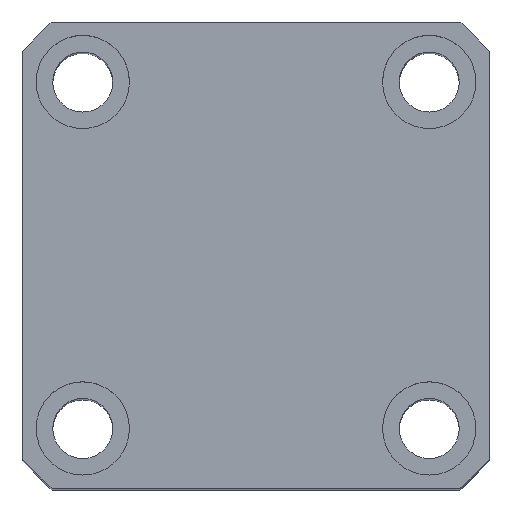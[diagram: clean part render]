
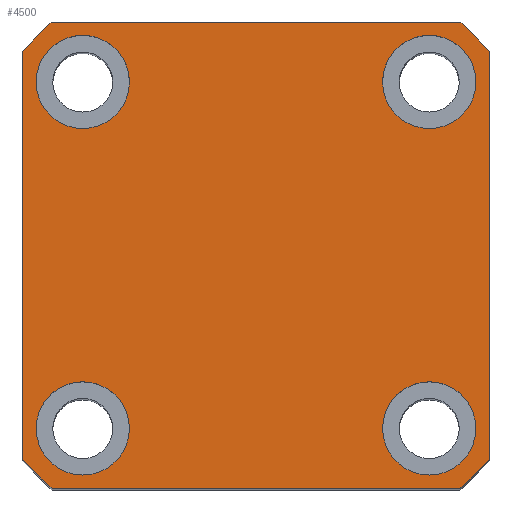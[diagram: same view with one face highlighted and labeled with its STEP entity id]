
A CAD part, top view. The second image highlights one B-rep face of the part: STEP entity #4500.
In plain terms, the highlighted planar face has unit normal (0, 0, 1).
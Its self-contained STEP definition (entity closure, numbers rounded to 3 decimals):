
#63 = CARTESIAN_POINT ( 'NONE',  ( -33., -26., 140. ) ) ;
#175 = DIRECTION ( 'NONE',  ( 1., 0., 0. ) ) ;
#280 = CARTESIAN_POINT ( 'NONE',  ( -26., -26., 140. ) ) ;
#434 = DIRECTION ( 'NONE',  ( -1., 0., 0. ) ) ;
#436 = AXIS2_PLACEMENT_3D ( 'NONE', #6849, #538, #7896 ) ;
#514 = CARTESIAN_POINT ( 'NONE',  ( 30.615, -35., 140. ) ) ;
#538 = DIRECTION ( 'NONE',  ( 0., 0., 1. ) ) ;
#757 = DIRECTION ( 'NONE',  ( 0., 0., 1. ) ) ;
#777 = DIRECTION ( 'NONE',  ( 0., 0., 1. ) ) ;
#785 = EDGE_CURVE ( 'NONE', #11726, #2215, #5813, .T. ) ;
#795 = PLANE ( 'NONE',  #3939 ) ;
#863 = DIRECTION ( 'NONE',  ( 1., 0., 0. ) ) ;
#873 = LINE ( 'NONE', #9091, #3022 ) ;
#967 = CARTESIAN_POINT ( 'NONE',  ( -19., 26., 140. ) ) ;
#975 = AXIS2_PLACEMENT_3D ( 'NONE', #13372, #7157, #863 ) ;
#1050 = VERTEX_POINT ( 'NONE', #7836 ) ;
#1063 = ORIENTED_EDGE ( 'NONE', *, *, #9046, .F. ) ;
#1356 = DIRECTION ( 'NONE',  ( 1., 0., 0. ) ) ;
#1388 = ORIENTED_EDGE ( 'NONE', *, *, #785, .F. ) ;
#1522 = CIRCLE ( 'NONE', #13301, 7. ) ;
#1738 = ORIENTED_EDGE ( 'NONE', *, *, #13108, .T. ) ;
#1773 = DIRECTION ( 'NONE',  ( 0., 0., 1. ) ) ;
#1873 = VECTOR ( 'NONE', #6742, 1000. ) ;
#2026 = CARTESIAN_POINT ( 'NONE',  ( 0., 0., 140. ) ) ;
#2215 = VERTEX_POINT ( 'NONE', #3346 ) ;
#2222 = VERTEX_POINT ( 'NONE', #2290 ) ;
#2290 = CARTESIAN_POINT ( 'NONE',  ( -30.615, -35., 140. ) ) ;
#2973 = CARTESIAN_POINT ( 'NONE',  ( 0., 0., 140. ) ) ;
#3022 = VECTOR ( 'NONE', #5977, 1000. ) ;
#3054 = CARTESIAN_POINT ( 'NONE',  ( 0., 0., 140. ) ) ;
#3081 = DIRECTION ( 'NONE',  ( 1., 0., 0. ) ) ;
#3088 = DIRECTION ( 'NONE',  ( 0., 0., 1. ) ) ;
#3131 = CARTESIAN_POINT ( 'NONE',  ( 26., -26., 140. ) ) ;
#3213 = CARTESIAN_POINT ( 'NONE',  ( 33., -26., 140. ) ) ;
#3277 = CARTESIAN_POINT ( 'NONE',  ( 30.615, 35., 140. ) ) ;
#3346 = CARTESIAN_POINT ( 'NONE',  ( 19., -26., 140. ) ) ;
#3475 = DIRECTION ( 'NONE',  ( 1., 0., 0. ) ) ;
#3540 = ORIENTED_EDGE ( 'NONE', *, *, #4556, .T. ) ;
#3690 = CIRCLE ( 'NONE', #10858, 7. ) ;
#3845 = CARTESIAN_POINT ( 'NONE',  ( 33., 26., 140. ) ) ;
#3939 = AXIS2_PLACEMENT_3D ( 'NONE', #6040, #3971, #11322 ) ;
#3971 = DIRECTION ( 'NONE',  ( 0., 0., 1. ) ) ;
#4021 = DIRECTION ( 'NONE',  ( 1., 0., 0. ) ) ;
#4050 = VERTEX_POINT ( 'NONE', #5065 ) ;
#4110 = DIRECTION ( 'NONE',  ( 1., 0., 0. ) ) ;
#4167 = LINE ( 'NONE', #12674, #6293 ) ;
#4173 = EDGE_LOOP ( 'NONE', ( #5843, #6168 ) ) ;
#4210 = ORIENTED_EDGE ( 'NONE', *, *, #10808, .T. ) ;
#4428 = AXIS2_PLACEMENT_3D ( 'NONE', #280, #7652, #1356 ) ;
#4500 = ADVANCED_FACE ( 'NONE', ( #11607, #11282, #8793, #6019, #8461 ), #795, .T. ) ;
#4556 = EDGE_CURVE ( 'NONE', #4050, #6726, #10627, .T. ) ;
#4680 = EDGE_LOOP ( 'NONE', ( #8455, #3540, #6336, #9477, #4210, #1738, #7321, #7647 ) ) ;
#5065 = CARTESIAN_POINT ( 'NONE',  ( 35., 30.615, 140. ) ) ;
#5451 = EDGE_CURVE ( 'NONE', #9612, #5745, #1522, .T. ) ;
#5612 = EDGE_CURVE ( 'NONE', #9495, #7906, #6127, .T. ) ;
#5696 = EDGE_CURVE ( 'NONE', #2215, #11726, #5803, .T. ) ;
#5745 = VERTEX_POINT ( 'NONE', #8246 ) ;
#5778 = CIRCLE ( 'NONE', #975, 46.5 ) ;
#5803 = CIRCLE ( 'NONE', #6773, 7. ) ;
#5813 = CIRCLE ( 'NONE', #5933, 7. ) ;
#5843 = ORIENTED_EDGE ( 'NONE', *, *, #8681, .F. ) ;
#5933 = AXIS2_PLACEMENT_3D ( 'NONE', #3131, #3088, #3475 ) ;
#5977 = DIRECTION ( 'NONE',  ( 0., 1., 0. ) ) ;
#6019 = FACE_BOUND ( 'NONE', #4173, .T. ) ;
#6023 = CARTESIAN_POINT ( 'NONE',  ( -26., 26., 140. ) ) ;
#6040 = CARTESIAN_POINT ( 'NONE',  ( 0., 0., 140. ) ) ;
#6078 = AXIS2_PLACEMENT_3D ( 'NONE', #2973, #10324, #4021 ) ;
#6127 = CIRCLE ( 'NONE', #6078, 46.5 ) ;
#6153 = AXIS2_PLACEMENT_3D ( 'NONE', #3054, #10412, #4110 ) ;
#6168 = ORIENTED_EDGE ( 'NONE', *, *, #8584, .F. ) ;
#6293 = VECTOR ( 'NONE', #9562, 1000. ) ;
#6335 = CARTESIAN_POINT ( 'NONE',  ( -35., -30.615, 140. ) ) ;
#6336 = ORIENTED_EDGE ( 'NONE', *, *, #10267, .T. ) ;
#6489 = DIRECTION ( 'NONE',  ( 0., 0., 1. ) ) ;
#6559 = CARTESIAN_POINT ( 'NONE',  ( -35., 30.615, 140. ) ) ;
#6726 = VERTEX_POINT ( 'NONE', #3277 ) ;
#6742 = DIRECTION ( 'NONE',  ( 0., -1., 0. ) ) ;
#6773 = AXIS2_PLACEMENT_3D ( 'NONE', #7069, #777, #8114 ) ;
#6849 = CARTESIAN_POINT ( 'NONE',  ( -26., 26., 140. ) ) ;
#7052 = CARTESIAN_POINT ( 'NONE',  ( -26., -26., 140. ) ) ;
#7069 = CARTESIAN_POINT ( 'NONE',  ( 26., -26., 140. ) ) ;
#7073 = DIRECTION ( 'NONE',  ( 1., 0., 0. ) ) ;
#7074 = CIRCLE ( 'NONE', #9174, 7. ) ;
#7151 = VERTEX_POINT ( 'NONE', #967 ) ;
#7157 = DIRECTION ( 'NONE',  ( 0., 0., 1. ) ) ;
#7310 = ORIENTED_EDGE ( 'NONE', *, *, #5696, .F. ) ;
#7321 = ORIENTED_EDGE ( 'NONE', *, *, #11538, .T. ) ;
#7449 = LINE ( 'NONE', #7558, #1873 ) ;
#7558 = CARTESIAN_POINT ( 'NONE',  ( -35., 35., 140. ) ) ;
#7647 = ORIENTED_EDGE ( 'NONE', *, *, #5612, .T. ) ;
#7652 = DIRECTION ( 'NONE',  ( 0., 0., 1. ) ) ;
#7721 = CIRCLE ( 'NONE', #436, 7. ) ;
#7800 = EDGE_CURVE ( 'NONE', #9105, #10043, #5778, .T. ) ;
#7836 = CARTESIAN_POINT ( 'NONE',  ( -33., 26., 140. ) ) ;
#7896 = DIRECTION ( 'NONE',  ( 1., 0., 0. ) ) ;
#7906 = VERTEX_POINT ( 'NONE', #11287 ) ;
#8051 = CARTESIAN_POINT ( 'NONE',  ( 26., 26., 140. ) ) ;
#8097 = DIRECTION ( 'NONE',  ( 1., 0., 0. ) ) ;
#8114 = DIRECTION ( 'NONE',  ( 1., 0., 0. ) ) ;
#8246 = CARTESIAN_POINT ( 'NONE',  ( 19., 26., 140. ) ) ;
#8455 = ORIENTED_EDGE ( 'NONE', *, *, #11104, .T. ) ;
#8461 = FACE_OUTER_BOUND ( 'NONE', #4680, .T. ) ;
#8584 = EDGE_CURVE ( 'NONE', #1050, #7151, #7721, .T. ) ;
#8681 = EDGE_CURVE ( 'NONE', #7151, #1050, #7074, .T. ) ;
#8752 = VECTOR ( 'NONE', #434, 1000. ) ;
#8793 = FACE_BOUND ( 'NONE', #10538, .T. ) ;
#8846 = CARTESIAN_POINT ( 'NONE',  ( -35., 35., 140. ) ) ;
#8930 = EDGE_LOOP ( 'NONE', ( #1063, #9465 ) ) ;
#9046 = EDGE_CURVE ( 'NONE', #11047, #10619, #12533, .T. ) ;
#9091 = CARTESIAN_POINT ( 'NONE',  ( 35., 35., 140. ) ) ;
#9105 = VERTEX_POINT ( 'NONE', #10844 ) ;
#9113 = DIRECTION ( 'NONE',  ( 1., 0., 0. ) ) ;
#9174 = AXIS2_PLACEMENT_3D ( 'NONE', #6023, #13291, #7073 ) ;
#9374 = DIRECTION ( 'NONE',  ( 0., 0., 1. ) ) ;
#9421 = CIRCLE ( 'NONE', #12334, 7. ) ;
#9465 = ORIENTED_EDGE ( 'NONE', *, *, #12862, .F. ) ;
#9477 = ORIENTED_EDGE ( 'NONE', *, *, #7800, .T. ) ;
#9495 = VERTEX_POINT ( 'NONE', #514 ) ;
#9562 = DIRECTION ( 'NONE',  ( 1., 0., 0. ) ) ;
#9612 = VERTEX_POINT ( 'NONE', #3845 ) ;
#9832 = EDGE_CURVE ( 'NONE', #5745, #9612, #3690, .T. ) ;
#10000 = AXIS2_PLACEMENT_3D ( 'NONE', #2026, #9374, #3081 ) ;
#10043 = VERTEX_POINT ( 'NONE', #6559 ) ;
#10153 = CARTESIAN_POINT ( 'NONE',  ( -19., -26., 140. ) ) ;
#10267 = EDGE_CURVE ( 'NONE', #6726, #9105, #11567, .T. ) ;
#10324 = DIRECTION ( 'NONE',  ( 0., 0., 1. ) ) ;
#10412 = DIRECTION ( 'NONE',  ( 0., 0., 1. ) ) ;
#10461 = ORIENTED_EDGE ( 'NONE', *, *, #5451, .F. ) ;
#10538 = EDGE_LOOP ( 'NONE', ( #10461, #13476 ) ) ;
#10619 = VERTEX_POINT ( 'NONE', #63 ) ;
#10627 = CIRCLE ( 'NONE', #6153, 46.5 ) ;
#10808 = EDGE_CURVE ( 'NONE', #10043, #11730, #7449, .T. ) ;
#10844 = CARTESIAN_POINT ( 'NONE',  ( -30.615, 35., 140. ) ) ;
#10858 = AXIS2_PLACEMENT_3D ( 'NONE', #12736, #6489, #175 ) ;
#10899 = CIRCLE ( 'NONE', #10000, 46.5 ) ;
#11042 = EDGE_LOOP ( 'NONE', ( #1388, #7310 ) ) ;
#11047 = VERTEX_POINT ( 'NONE', #10153 ) ;
#11104 = EDGE_CURVE ( 'NONE', #7906, #4050, #873, .T. ) ;
#11282 = FACE_BOUND ( 'NONE', #11042, .T. ) ;
#11287 = CARTESIAN_POINT ( 'NONE',  ( 35., -30.615, 140. ) ) ;
#11322 = DIRECTION ( 'NONE',  ( 1., 0., 0. ) ) ;
#11538 = EDGE_CURVE ( 'NONE', #2222, #9495, #4167, .T. ) ;
#11567 = LINE ( 'NONE', #8846, #8752 ) ;
#11607 = FACE_BOUND ( 'NONE', #8930, .T. ) ;
#11726 = VERTEX_POINT ( 'NONE', #3213 ) ;
#11730 = VERTEX_POINT ( 'NONE', #6335 ) ;
#12334 = AXIS2_PLACEMENT_3D ( 'NONE', #7052, #757, #8097 ) ;
#12533 = CIRCLE ( 'NONE', #4428, 7. ) ;
#12674 = CARTESIAN_POINT ( 'NONE',  ( -35., -35., 140. ) ) ;
#12736 = CARTESIAN_POINT ( 'NONE',  ( 26., 26., 140. ) ) ;
#12862 = EDGE_CURVE ( 'NONE', #10619, #11047, #9421, .T. ) ;
#13108 = EDGE_CURVE ( 'NONE', #11730, #2222, #10899, .T. ) ;
#13291 = DIRECTION ( 'NONE',  ( 0., 0., 1. ) ) ;
#13301 = AXIS2_PLACEMENT_3D ( 'NONE', #8051, #1773, #9113 ) ;
#13372 = CARTESIAN_POINT ( 'NONE',  ( 0., 0., 140. ) ) ;
#13476 = ORIENTED_EDGE ( 'NONE', *, *, #9832, .F. ) ;
